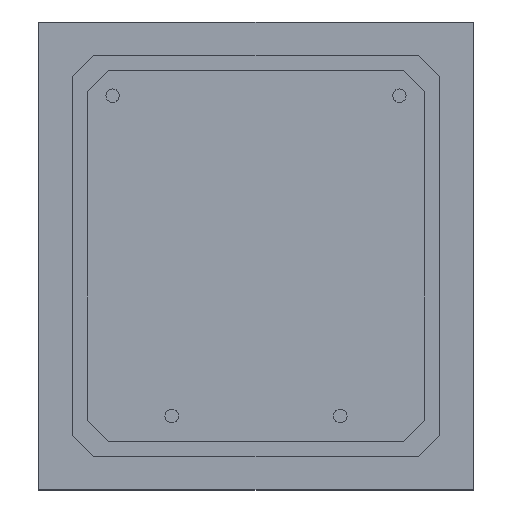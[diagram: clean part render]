
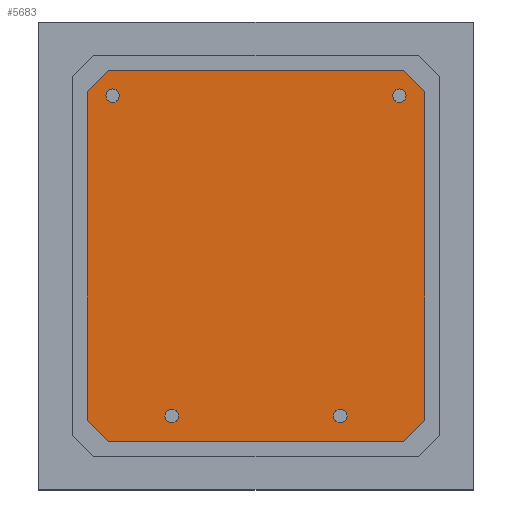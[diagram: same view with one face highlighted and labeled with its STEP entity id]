
A CAD part, top view. The second image highlights one B-rep face of the part: STEP entity #5683.
In plain terms, the highlighted planar face has unit normal (0, 0, 1).
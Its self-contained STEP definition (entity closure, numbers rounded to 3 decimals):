
#68 = CIRCLE ( 'NONE', #3381, 1.6 ) ;
#147 = CARTESIAN_POINT ( 'NONE',  ( -33.5, 38.5, 1.6 ) ) ;
#210 = EDGE_CURVE ( 'NONE', #938, #1624, #2390, .T. ) ;
#312 = EDGE_LOOP ( 'NONE', ( #815, #4468 ) ) ;
#371 = CIRCLE ( 'NONE', #4088, 1.6 ) ;
#537 = DIRECTION ( 'NONE',  ( 1., 0., 0. ) ) ;
#688 = EDGE_CURVE ( 'NONE', #966, #5023, #4770, .T. ) ;
#692 = ORIENTED_EDGE ( 'NONE', *, *, #5063, .T. ) ;
#806 = CARTESIAN_POINT ( 'NONE',  ( 36.5, 38.5, 1.6 ) ) ;
#815 = ORIENTED_EDGE ( 'NONE', *, *, #2888, .F. ) ;
#856 = FACE_BOUND ( 'NONE', #3623, .T. ) ;
#885 = ORIENTED_EDGE ( 'NONE', *, *, #2469, .F. ) ;
#886 = PLANE ( 'NONE',  #3636 ) ;
#891 = VERTEX_POINT ( 'NONE', #1293 ) ;
#938 = VERTEX_POINT ( 'NONE', #1869 ) ;
#966 = VERTEX_POINT ( 'NONE', #3283 ) ;
#1010 = DIRECTION ( 'NONE',  ( 1., 0., 0. ) ) ;
#1057 = CIRCLE ( 'NONE', #4374, 1.6 ) ;
#1061 = DIRECTION ( 'NONE',  ( 1., 0., 0. ) ) ;
#1256 = ORIENTED_EDGE ( 'NONE', *, *, #4794, .T. ) ;
#1283 = FACE_BOUND ( 'NONE', #5463, .T. ) ;
#1293 = CARTESIAN_POINT ( 'NONE',  ( 41.5, -44.5, 1.6 ) ) ;
#1336 = EDGE_CURVE ( 'NONE', #1340, #2089, #5431, .T. ) ;
#1340 = VERTEX_POINT ( 'NONE', #3781 ) ;
#1493 = DIRECTION ( 'NONE',  ( 0.707, -0.707, 0. ) ) ;
#1551 = CARTESIAN_POINT ( 'NONE',  ( 35.5, 32.5, 1.6 ) ) ;
#1592 = DIRECTION ( 'NONE',  ( 1., 0., 0. ) ) ;
#1597 = CARTESIAN_POINT ( 'NONE',  ( -33.5, -49.5, 1.6 ) ) ;
#1624 = VERTEX_POINT ( 'NONE', #2696 ) ;
#1680 = VECTOR ( 'NONE', #1493, 1000. ) ;
#1748 = CARTESIAN_POINT ( 'NONE',  ( -34.1, 32.5, 1.6 ) ) ;
#1797 = CARTESIAN_POINT ( 'NONE',  ( 0., 0., 1.6 ) ) ;
#1809 = CIRCLE ( 'NONE', #5229, 1.6 ) ;
#1863 = CARTESIAN_POINT ( 'NONE',  ( -38.5, 33.5, 1.6 ) ) ;
#1869 = CARTESIAN_POINT ( 'NONE',  ( -33.5, 38.5, 1.6 ) ) ;
#1924 = CARTESIAN_POINT ( 'NONE',  ( -18.5, -43.5, 1.6 ) ) ;
#1941 = CARTESIAN_POINT ( 'NONE',  ( 35.5, 32.5, 1.6 ) ) ;
#2029 = CARTESIAN_POINT ( 'NONE',  ( 21.5, -43.5, 1.6 ) ) ;
#2052 = ORIENTED_EDGE ( 'NONE', *, *, #688, .F. ) ;
#2065 = VECTOR ( 'NONE', #3504, 1000. ) ;
#2078 = DIRECTION ( 'NONE',  ( 0., 0., 1. ) ) ;
#2089 = VERTEX_POINT ( 'NONE', #5948 ) ;
#2122 = ORIENTED_EDGE ( 'NONE', *, *, #4072, .T. ) ;
#2212 = CARTESIAN_POINT ( 'NONE',  ( 36.5, -49.5, 1.6 ) ) ;
#2305 = DIRECTION ( 'NONE',  ( 0., 0., 1. ) ) ;
#2322 = VERTEX_POINT ( 'NONE', #3540 ) ;
#2358 = CARTESIAN_POINT ( 'NONE',  ( 19.9, -43.5, 1.6 ) ) ;
#2383 = ORIENTED_EDGE ( 'NONE', *, *, #4491, .T. ) ;
#2384 = LINE ( 'NONE', #1863, #3530 ) ;
#2390 = LINE ( 'NONE', #147, #5462 ) ;
#2469 = EDGE_CURVE ( 'NONE', #3810, #2969, #1057, .T. ) ;
#2668 = DIRECTION ( 'NONE',  ( -1., 0., 0. ) ) ;
#2684 = FACE_OUTER_BOUND ( 'NONE', #2782, .T. ) ;
#2696 = CARTESIAN_POINT ( 'NONE',  ( -38.5, 33.5, 1.6 ) ) ;
#2721 = CARTESIAN_POINT ( 'NONE',  ( 41.5, 33.5, 1.6 ) ) ;
#2754 = FACE_BOUND ( 'NONE', #3176, .T. ) ;
#2782 = EDGE_LOOP ( 'NONE', ( #2383, #692, #3387, #5372, #1256, #3307, #3958, #2122 ) ) ;
#2786 = VERTEX_POINT ( 'NONE', #4366 ) ;
#2888 = EDGE_CURVE ( 'NONE', #2089, #1340, #371, .T. ) ;
#2916 = DIRECTION ( 'NONE',  ( 1., 0., 0. ) ) ;
#2934 = EDGE_CURVE ( 'NONE', #2322, #938, #4511, .T. ) ;
#2969 = VERTEX_POINT ( 'NONE', #1748 ) ;
#2975 = CARTESIAN_POINT ( 'NONE',  ( 21.5, -43.5, 1.6 ) ) ;
#2999 = ORIENTED_EDGE ( 'NONE', *, *, #3267, .F. ) ;
#3015 = LINE ( 'NONE', #1597, #2065 ) ;
#3044 = DIRECTION ( 'NONE',  ( 0.707, 0.707, 0. ) ) ;
#3075 = ORIENTED_EDGE ( 'NONE', *, *, #5041, .F. ) ;
#3141 = AXIS2_PLACEMENT_3D ( 'NONE', #2029, #5758, #3292 ) ;
#3150 = DIRECTION ( 'NONE',  ( 1., 0., 0. ) ) ;
#3168 = DIRECTION ( 'NONE',  ( 1., 0., 0. ) ) ;
#3176 = EDGE_LOOP ( 'NONE', ( #5675, #885 ) ) ;
#3199 = DIRECTION ( 'NONE',  ( 0., 0., 1. ) ) ;
#3202 = AXIS2_PLACEMENT_3D ( 'NONE', #1924, #5199, #1010 ) ;
#3267 = EDGE_CURVE ( 'NONE', #5023, #966, #1809, .T. ) ;
#3273 = EDGE_CURVE ( 'NONE', #4140, #5954, #68, .T. ) ;
#3283 = CARTESIAN_POINT ( 'NONE',  ( -16.9, -43.5, 1.6 ) ) ;
#3292 = DIRECTION ( 'NONE',  ( 1., 0., 0. ) ) ;
#3307 = ORIENTED_EDGE ( 'NONE', *, *, #2934, .T. ) ;
#3377 = DIRECTION ( 'NONE',  ( -0.707, -0.707, 0. ) ) ;
#3381 = AXIS2_PLACEMENT_3D ( 'NONE', #2975, #2078, #1592 ) ;
#3387 = ORIENTED_EDGE ( 'NONE', *, *, #5084, .T. ) ;
#3441 = CARTESIAN_POINT ( 'NONE',  ( -32.5, 32.5, 1.6 ) ) ;
#3504 = DIRECTION ( 'NONE',  ( 1., 0., 0. ) ) ;
#3530 = VECTOR ( 'NONE', #4258, 1000. ) ;
#3540 = CARTESIAN_POINT ( 'NONE',  ( 36.5, 38.5, 1.6 ) ) ;
#3623 = EDGE_LOOP ( 'NONE', ( #2999, #2052 ) ) ;
#3636 = AXIS2_PLACEMENT_3D ( 'NONE', #1797, #4136, #3150 ) ;
#3735 = VECTOR ( 'NONE', #4691, 1000. ) ;
#3740 = VECTOR ( 'NONE', #5090, 1000. ) ;
#3781 = CARTESIAN_POINT ( 'NONE',  ( 37.1, 32.5, 1.6 ) ) ;
#3785 = AXIS2_PLACEMENT_3D ( 'NONE', #1941, #2305, #537 ) ;
#3810 = VERTEX_POINT ( 'NONE', #5783 ) ;
#3849 = CARTESIAN_POINT ( 'NONE',  ( -38.5, -44.5, 1.6 ) ) ;
#3878 = LINE ( 'NONE', #3849, #1680 ) ;
#3958 = ORIENTED_EDGE ( 'NONE', *, *, #210, .T. ) ;
#4072 = EDGE_CURVE ( 'NONE', #1624, #2786, #2384, .T. ) ;
#4088 = AXIS2_PLACEMENT_3D ( 'NONE', #1551, #5847, #1061 ) ;
#4136 = DIRECTION ( 'NONE',  ( 0., 0., 1. ) ) ;
#4140 = VERTEX_POINT ( 'NONE', #2358 ) ;
#4258 = DIRECTION ( 'NONE',  ( 0., -1., 0. ) ) ;
#4366 = CARTESIAN_POINT ( 'NONE',  ( -38.5, -44.5, 1.6 ) ) ;
#4374 = AXIS2_PLACEMENT_3D ( 'NONE', #4999, #3199, #3168 ) ;
#4420 = DIRECTION ( 'NONE',  ( 0., 0., 1. ) ) ;
#4468 = ORIENTED_EDGE ( 'NONE', *, *, #1336, .F. ) ;
#4491 = EDGE_CURVE ( 'NONE', #2786, #5486, #3878, .T. ) ;
#4511 = LINE ( 'NONE', #806, #5344 ) ;
#4636 = ORIENTED_EDGE ( 'NONE', *, *, #3273, .F. ) ;
#4672 = LINE ( 'NONE', #5061, #3740 ) ;
#4691 = DIRECTION ( 'NONE',  ( 0., 1., 0. ) ) ;
#4722 = LINE ( 'NONE', #5233, #3735 ) ;
#4770 = CIRCLE ( 'NONE', #3202, 1.6 ) ;
#4780 = CARTESIAN_POINT ( 'NONE',  ( -33.5, -49.5, 1.6 ) ) ;
#4794 = EDGE_CURVE ( 'NONE', #5699, #2322, #4672, .T. ) ;
#4874 = VERTEX_POINT ( 'NONE', #2212 ) ;
#4877 = LINE ( 'NONE', #5357, #5969 ) ;
#4896 = DIRECTION ( 'NONE',  ( 0., 0., 1. ) ) ;
#4931 = DIRECTION ( 'NONE',  ( 1., 0., 0. ) ) ;
#4999 = CARTESIAN_POINT ( 'NONE',  ( -32.5, 32.5, 1.6 ) ) ;
#5023 = VERTEX_POINT ( 'NONE', #5269 ) ;
#5041 = EDGE_CURVE ( 'NONE', #5954, #4140, #5771, .T. ) ;
#5061 = CARTESIAN_POINT ( 'NONE',  ( 41.5, 33.5, 1.6 ) ) ;
#5063 = EDGE_CURVE ( 'NONE', #5486, #4874, #3015, .T. ) ;
#5084 = EDGE_CURVE ( 'NONE', #4874, #891, #4877, .T. ) ;
#5090 = DIRECTION ( 'NONE',  ( -0.707, 0.707, 0. ) ) ;
#5118 = EDGE_CURVE ( 'NONE', #2969, #3810, #5787, .T. ) ;
#5199 = DIRECTION ( 'NONE',  ( 0., 0., 1. ) ) ;
#5229 = AXIS2_PLACEMENT_3D ( 'NONE', #5289, #4896, #2916 ) ;
#5233 = CARTESIAN_POINT ( 'NONE',  ( 41.5, -44.5, 1.6 ) ) ;
#5269 = CARTESIAN_POINT ( 'NONE',  ( -20.1, -43.5, 1.6 ) ) ;
#5289 = CARTESIAN_POINT ( 'NONE',  ( -18.5, -43.5, 1.6 ) ) ;
#5297 = AXIS2_PLACEMENT_3D ( 'NONE', #3441, #4420, #4931 ) ;
#5344 = VECTOR ( 'NONE', #2668, 1000. ) ;
#5357 = CARTESIAN_POINT ( 'NONE',  ( 36.5, -49.5, 1.6 ) ) ;
#5372 = ORIENTED_EDGE ( 'NONE', *, *, #5407, .T. ) ;
#5407 = EDGE_CURVE ( 'NONE', #891, #5699, #4722, .T. ) ;
#5431 = CIRCLE ( 'NONE', #3785, 1.6 ) ;
#5462 = VECTOR ( 'NONE', #3377, 1000. ) ;
#5463 = EDGE_LOOP ( 'NONE', ( #4636, #3075 ) ) ;
#5486 = VERTEX_POINT ( 'NONE', #4780 ) ;
#5675 = ORIENTED_EDGE ( 'NONE', *, *, #5118, .F. ) ;
#5683 = ADVANCED_FACE ( 'NONE', ( #856, #2754, #2684, #5987, #1283 ), #886, .T. ) ;
#5699 = VERTEX_POINT ( 'NONE', #2721 ) ;
#5758 = DIRECTION ( 'NONE',  ( 0., 0., 1. ) ) ;
#5771 = CIRCLE ( 'NONE', #3141, 1.6 ) ;
#5783 = CARTESIAN_POINT ( 'NONE',  ( -30.9, 32.5, 1.6 ) ) ;
#5787 = CIRCLE ( 'NONE', #5297, 1.6 ) ;
#5827 = CARTESIAN_POINT ( 'NONE',  ( 23.1, -43.5, 1.6 ) ) ;
#5847 = DIRECTION ( 'NONE',  ( 0., 0., 1. ) ) ;
#5948 = CARTESIAN_POINT ( 'NONE',  ( 33.9, 32.5, 1.6 ) ) ;
#5954 = VERTEX_POINT ( 'NONE', #5827 ) ;
#5969 = VECTOR ( 'NONE', #3044, 1000. ) ;
#5987 = FACE_BOUND ( 'NONE', #312, .T. ) ;
